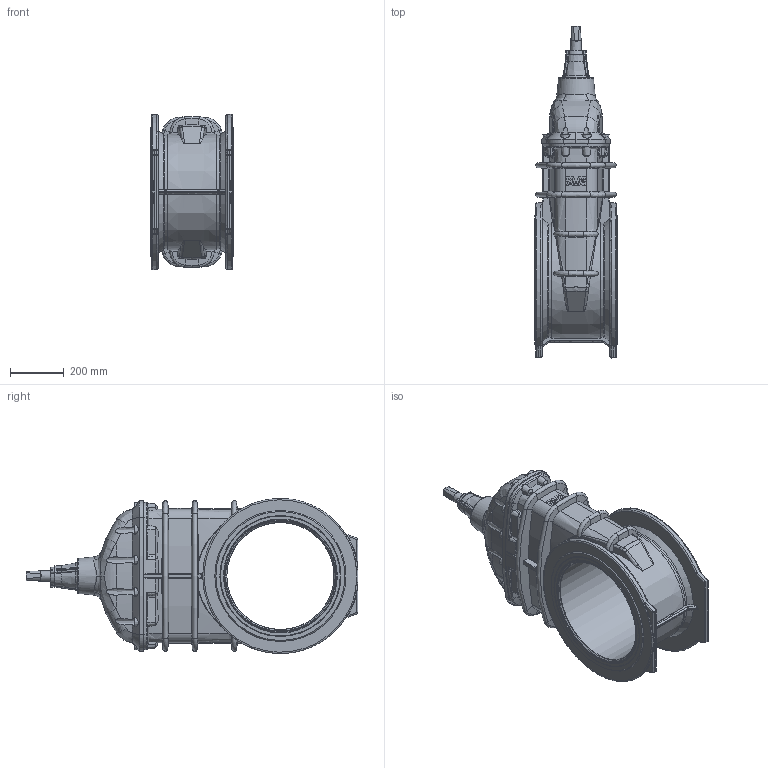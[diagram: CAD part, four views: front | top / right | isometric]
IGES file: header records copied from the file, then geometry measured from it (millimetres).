
Start section: SolidWorks IGES file using analytic representation for surfaces
Global section: file name: \\avksan2\techshare\PBM outline export from Enovia\O_06_30_DN400_REV02.igs; native system: SolidWorks 2019; preprocessor: SolidWorks 2019; author: pbm; date: 200427.104028; units: millimetre
Bounding box: 310 x 1240.86 x 579.89 mm (x, y, z)
Surface area: 2343368.9 mm2 (no closed solid volume)
Topology: 0 solids, 0 shells, 853 faces, 4545 edges, 4492 vertices
Faces by surface type: revolution 476, bspline 377
